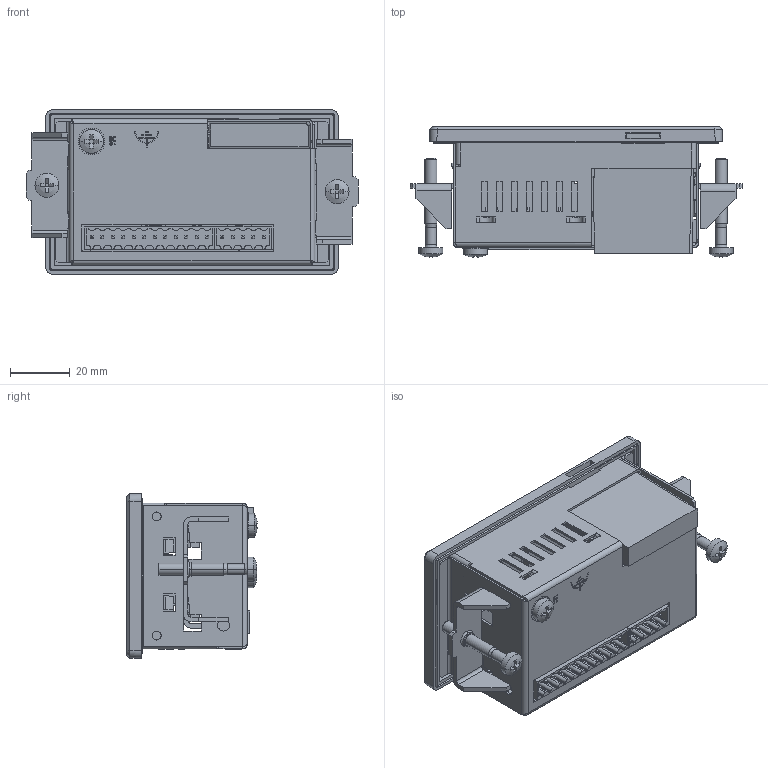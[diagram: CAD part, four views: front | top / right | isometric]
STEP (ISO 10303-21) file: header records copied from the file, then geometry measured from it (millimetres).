
FILE_DESCRIPTION((''),'2;1');
FILE_NAME('2015196','2014-02-13T',('thampe'),(''),'PRO/ENGINEER BY PARAMETRIC TECHNOLOGY CORPORATION, 2011040','PRO/ENGINEER BY PARAMETRIC TECHNOLOGY CORPORATION, 2011040','');
FILE_SCHEMA(('AUTOMOTIVE_DESIGN_CC2 { 1 2 10303 214 -1 1 5 2 }'));
Products named in the file (1): 2015196
Bounding box: 111 x 43.68 x 55 mm (x, y, z)
Volume: 37897.7 mm3; surface area: 59710.7 mm2
Topology: 27 solids, 29 shells, 3583 faces, 9715 edges, 6325 vertices
Faces by surface type: plane 1931, extrusion 1169, cylinder 364, torus 42, bspline 38, cone 33, sphere 6
Entity records: 149444 total; most frequent: CARTESIAN_POINT 34297, ORIENTED_EDGE 19420, DIRECTION 13786, PRESENTATION_STYLE_ASSIGNMENT 9738, STYLED_ITEM 9738, CURVE_STYLE 9711, EDGE_CURVE 9710, VECTOR 7540
